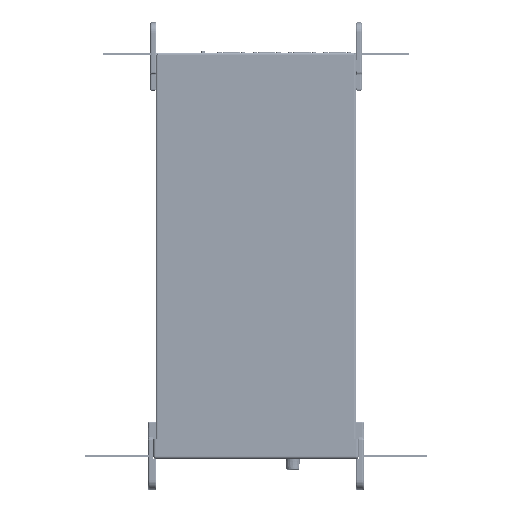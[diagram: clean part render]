
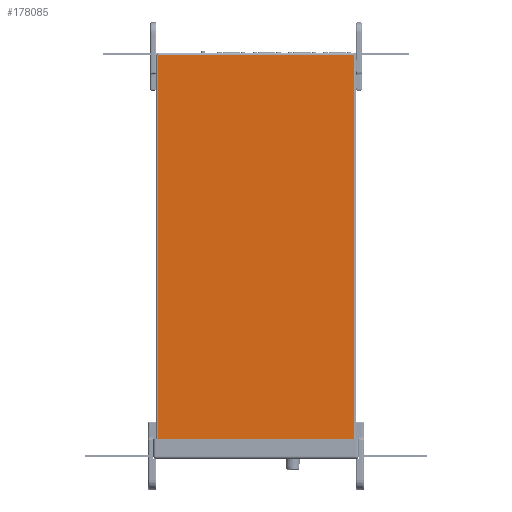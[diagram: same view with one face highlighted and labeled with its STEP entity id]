
A CAD part, top view. The second image highlights one B-rep face of the part: STEP entity #178085.
In plain terms, the highlighted planar face has unit normal (0, 0, 1) as drawn and (0, -1, 0) by its records, which use the part's own axes.
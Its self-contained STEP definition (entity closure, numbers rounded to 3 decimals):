
#6163=FACE_BOUND('',#25552,.T.);
#6164=FACE_BOUND('',#25553,.T.);
#6165=FACE_BOUND('',#25554,.T.);
#9223=PLANE('',#190032);
#15206=FACE_OUTER_BOUND('',#25551,.T.);
#25551=EDGE_LOOP('',(#133085,#133086,#133087,#133088));
#25552=EDGE_LOOP('',(#133089,#133090));
#25553=EDGE_LOOP('',(#133091,#133092));
#25554=EDGE_LOOP('',(#133093,#133094));
#36616=LINE('',#257108,#53953);
#36637=LINE('',#257277,#53974);
#38760=LINE('',#262946,#56097);
#38764=LINE('',#262954,#56101);
#53953=VECTOR('',#206923,10.);
#53974=VECTOR('',#206996,10.);
#56097=VECTOR('',#213365,10.);
#56101=VECTOR('',#213377,10.);
#70593=CIRCLE('',#187860,3.25);
#70594=CIRCLE('',#187861,3.25);
#70596=CIRCLE('',#187864,3.25);
#70597=CIRCLE('',#187865,3.25);
#70599=CIRCLE('',#187868,3.25);
#70600=CIRCLE('',#187869,3.25);
#78804=VERTEX_POINT('',#257018);
#78805=VERTEX_POINT('',#257019);
#78807=VERTEX_POINT('',#257026);
#78808=VERTEX_POINT('',#257027);
#78810=VERTEX_POINT('',#257034);
#78811=VERTEX_POINT('',#257035);
#78817=VERTEX_POINT('',#257099);
#78818=VERTEX_POINT('',#257107);
#78833=VERTEX_POINT('',#257276);
#80256=VERTEX_POINT('',#262944);
#97173=EDGE_CURVE('',#78804,#78805,#70593,.T.);
#97174=EDGE_CURVE('',#78805,#78804,#70594,.T.);
#97177=EDGE_CURVE('',#78807,#78808,#70596,.T.);
#97178=EDGE_CURVE('',#78808,#78807,#70597,.T.);
#97181=EDGE_CURVE('',#78810,#78811,#70599,.T.);
#97182=EDGE_CURVE('',#78811,#78810,#70600,.T.);
#97198=EDGE_CURVE('',#78818,#78817,#36616,.T.);
#97235=EDGE_CURVE('',#78833,#78818,#36637,.T.);
#100070=EDGE_CURVE('',#78817,#80256,#38760,.T.);
#100074=EDGE_CURVE('',#78833,#80256,#38764,.T.);
#133085=ORIENTED_EDGE('',*,*,#97198,.T.);
#133086=ORIENTED_EDGE('',*,*,#100070,.T.);
#133087=ORIENTED_EDGE('',*,*,#100074,.F.);
#133088=ORIENTED_EDGE('',*,*,#97235,.T.);
#133089=ORIENTED_EDGE('',*,*,#97173,.T.);
#133090=ORIENTED_EDGE('',*,*,#97174,.T.);
#133091=ORIENTED_EDGE('',*,*,#97177,.T.);
#133092=ORIENTED_EDGE('',*,*,#97178,.T.);
#133093=ORIENTED_EDGE('',*,*,#97181,.T.);
#133094=ORIENTED_EDGE('',*,*,#97182,.T.);
#178085=ADVANCED_FACE('',(#15206,#6163,#6164,#6165),#9223,.F.);
#187860=AXIS2_PLACEMENT_3D('',#257020,#206873,#206874);
#187861=AXIS2_PLACEMENT_3D('',#257021,#206875,#206876);
#187864=AXIS2_PLACEMENT_3D('',#257028,#206882,#206883);
#187865=AXIS2_PLACEMENT_3D('',#257029,#206884,#206885);
#187868=AXIS2_PLACEMENT_3D('',#257036,#206891,#206892);
#187869=AXIS2_PLACEMENT_3D('',#257037,#206893,#206894);
#190032=AXIS2_PLACEMENT_3D('',#262953,#213375,#213376);
#206873=DIRECTION('center_axis',(0.,1.,0.));
#206874=DIRECTION('ref_axis',(1.,0.,0.));
#206875=DIRECTION('center_axis',(0.,1.,0.));
#206876=DIRECTION('ref_axis',(1.,0.,0.));
#206882=DIRECTION('center_axis',(0.,1.,0.));
#206883=DIRECTION('ref_axis',(1.,0.,0.));
#206884=DIRECTION('center_axis',(0.,1.,0.));
#206885=DIRECTION('ref_axis',(1.,0.,0.));
#206891=DIRECTION('center_axis',(0.,1.,0.));
#206892=DIRECTION('ref_axis',(1.,0.,0.));
#206893=DIRECTION('center_axis',(0.,1.,0.));
#206894=DIRECTION('ref_axis',(1.,0.,0.));
#206923=DIRECTION('',(0.,0.,-1.));
#206996=DIRECTION('',(-1.,0.,0.));
#213365=DIRECTION('',(1.,0.,0.));
#213375=DIRECTION('center_axis',(0.,1.,0.));
#213376=DIRECTION('ref_axis',(0.,0.,1.));
#213377=DIRECTION('',(0.,0.,-1.));
#257018=CARTESIAN_POINT('',(562.95,0.,-140.7));
#257019=CARTESIAN_POINT('',(556.45,0.,-140.7));
#257020=CARTESIAN_POINT('Origin',(559.7,0.,-140.7));
#257021=CARTESIAN_POINT('Origin',(559.7,0.,-140.7));
#257026=CARTESIAN_POINT('',(562.95,0.,-240.7));
#257027=CARTESIAN_POINT('',(556.45,0.,-240.7));
#257028=CARTESIAN_POINT('Origin',(559.7,0.,-240.7));
#257029=CARTESIAN_POINT('Origin',(559.7,0.,-240.7));
#257034=CARTESIAN_POINT('',(562.95,0.,-40.7));
#257035=CARTESIAN_POINT('',(556.45,0.,-40.7));
#257036=CARTESIAN_POINT('Origin',(559.7,0.,-40.7));
#257037=CARTESIAN_POINT('Origin',(559.7,0.,-40.7));
#257099=CARTESIAN_POINT('',(2.6,0.,-278.9));
#257107=CARTESIAN_POINT('',(2.6,0.,-2.6));
#257108=CARTESIAN_POINT('',(2.6,0.,-71.675));
#257276=CARTESIAN_POINT('',(565.5,0.,-2.6));
#257277=CARTESIAN_POINT('',(424.125,0.,-2.6));
#262944=CARTESIAN_POINT('',(565.5,0.,-278.9));
#262946=CARTESIAN_POINT('',(141.375,0.,-278.9));
#262953=CARTESIAN_POINT('Origin',(282.75,0.,-140.75));
#262954=CARTESIAN_POINT('',(565.5,0.,0.));
